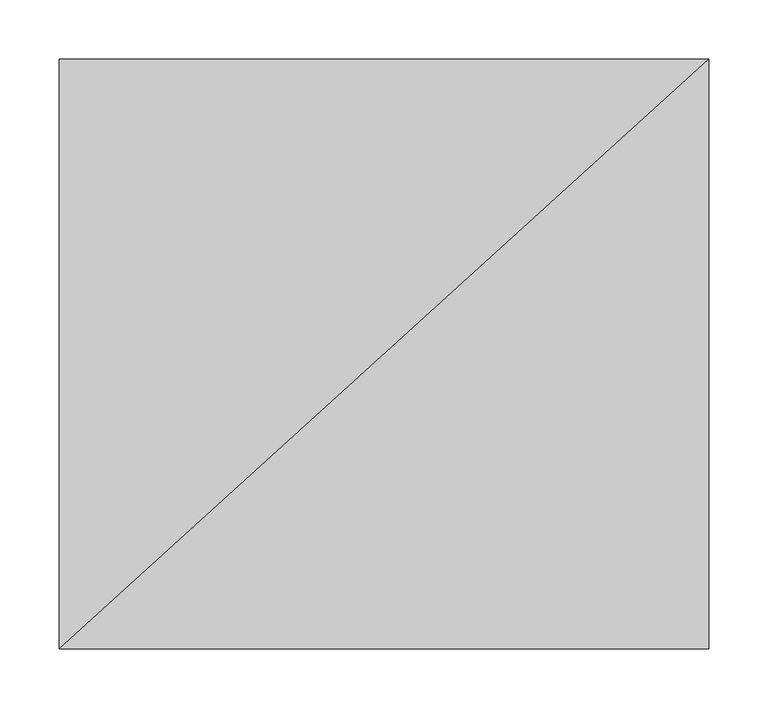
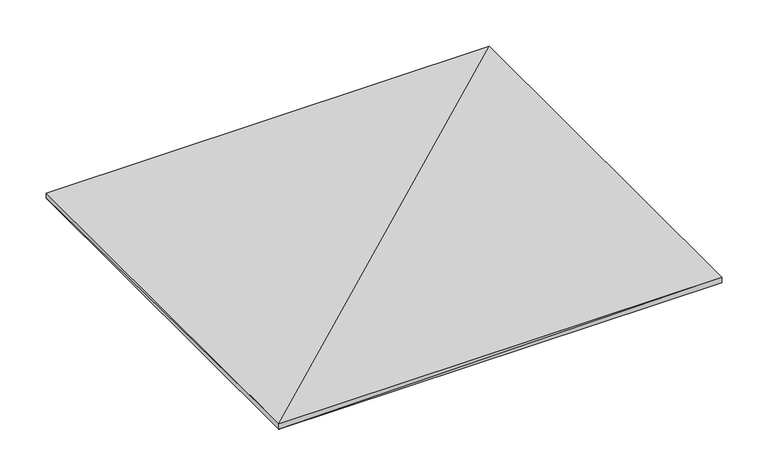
"""IFC4 building model written with IfcOpenShell, lengths in millimetres: geographic element geometry, Enscape AssetDefinition - Cooking plate 1 : Enscape AssetDefinition - Cooking plate 1."""

from ifc_helpers import new_model, si_unit, origin, place, context, project, spatial, faceted_brep, source, transform, mapped, element, save


def geographic_element_9300c8df(model_context):
    return source(origin(), model_context, "Body", "Brep", [
        faceted_brep([(274.9990821, 249.7943491, 0.0), (-274.9990821, -249.7943491, 0.0), (-274.9990821, 249.7943491, 0.0), (274.9990821, -249.7943491, 0.0), (274.9990821, 249.7943491, 7.0219366), (-274.9990821, -249.7943491, 7.0219366), (274.9990821, -249.7943491, 7.0219366), (-274.9990821, 249.7943491, 7.0219366)], [[[0, 1, 2]], [[1, 0, 3]], [[4, 5, 6]], [[5, 4, 7]], [[6, 1, 3]], [[1, 6, 5]], [[4, 3, 0]], [[3, 4, 6]], [[7, 0, 2]], [[0, 7, 4]], [[5, 2, 1]], [[2, 5, 7]]]),
    ])


if __name__ == "__main__":
    model = new_model("IFC4")
    model_context = context("Model", 3, world=origin())
    ifc_project = project(units=[si_unit("LENGTHUNIT", "METRE", prefix="MILLI")], contexts=[model_context])
    site = spatial("IfcSite", under=ifc_project)
    building = spatial("IfcBuilding", under=site)
    placement = place(None, origin())
    geographic_element_shape = geographic_element_9300c8df(model_context)
    element("IfcGeographicElement", 1, ObjectType="Enscape AssetDefinition - Cooking plate 1 : Enscape AssetDefinition - Cooking plate 1", at=placement, inside=building, context=model_context, shape_type="MappedRepresentation", body=[
        mapped(geographic_element_shape, transform((0.0, 0.0, 0.0), x_axis=(1.0, 0.0, 0.0), y_axis=(0.0, 1.0, 0.0), z_axis=(0.0, 0.0, 1.0))),
    ])
    save(model, "model.ifc")
